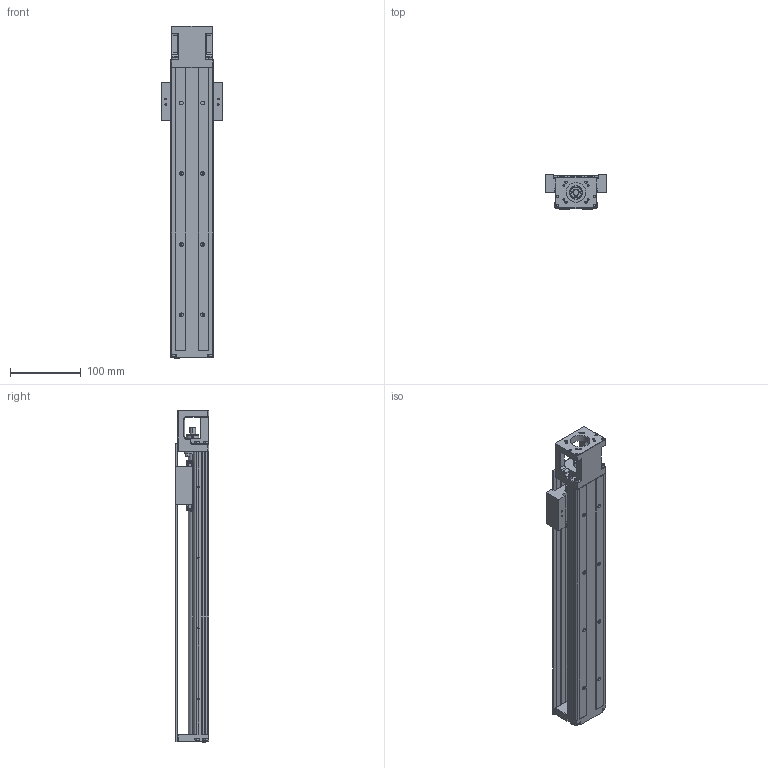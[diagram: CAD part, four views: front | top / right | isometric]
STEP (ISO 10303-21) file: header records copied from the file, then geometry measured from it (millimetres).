
FILE_DESCRIPTION (( 'STEP AP214' ), '1' );
FILE_NAME ('7.0117 KT6010C-400A1-F0C.STEP', '2026-03-17T11:22:41', ( '' ), ( '' ), 'SwSTEP 2.0', 'SolidWorks 2025', '' );
FILE_SCHEMA (( 'AUTOMOTIVE_DESIGN' ));
Length unit declared in the file: millimetre
Products named in the file (4): 7.0117 KT6010C-400A1-F0C; KT60C-K0_400; KT60C-A1-C; KT-60-CU_400
Assembly tree (3 placements, depth 2):
  7.0117 KT6010C-400A1-F0C
    KT60C-K0_400
    KT60C-A1-C
    KT-60-CU_400
Bounding box: 86 x 48 x 470 mm (x, y, z)
Volume: 581449.9 mm3; surface area: 228933 mm2
Topology: 26 solids, 26 shells, 1568 faces, 4147 edges, 2632 vertices
Faces by surface type: plane 743, cylinder 599, cone 144, torus 69, sphere 13
Entity records: 65503 total; most frequent: CARTESIAN_POINT 12329, DIRECTION 8393, ORIENTED_EDGE 8136, EDGE_CURVE 4068, AXIS2_PLACEMENT_3D 2984, VERTEX_POINT 2632, LINE 2425, VECTOR 2425
